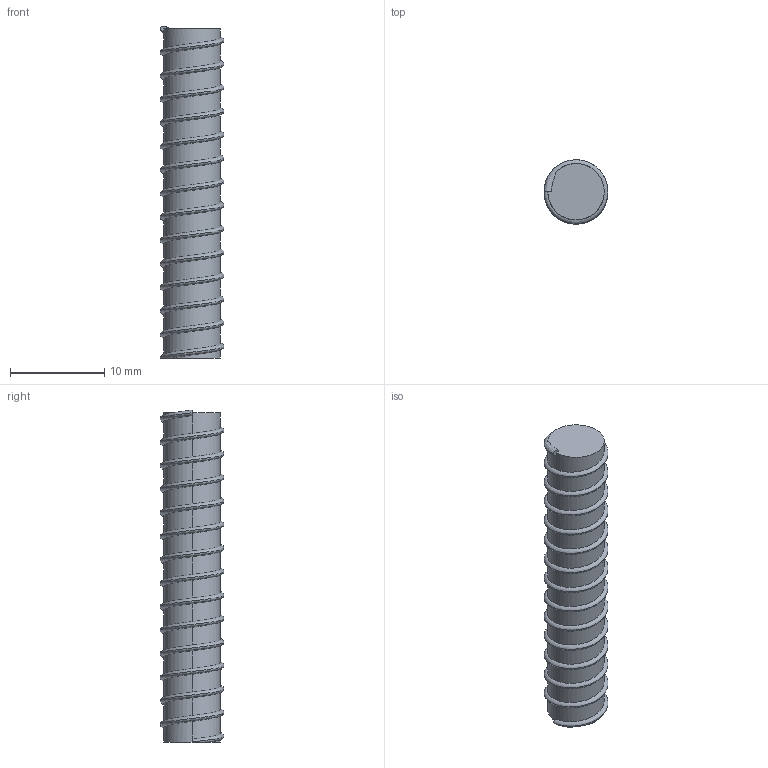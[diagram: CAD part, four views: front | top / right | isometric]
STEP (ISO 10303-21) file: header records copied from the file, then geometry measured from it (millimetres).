
FILE_DESCRIPTION (( 'STEP AP214' ), '1' );
FILE_NAME ('threadedspindle.STEP', '2025-06-15T00:36:43', ( '' ), ( '' ), 'SwSTEP 2.0', 'SolidWorks 2024', '' );
FILE_SCHEMA (( 'AUTOMOTIVE_DESIGN' ));
Length unit declared in the file: millimetre
Products named in the file (1): threadedspindle
Bounding box: 6.8 x 6.8 x 35.3 mm (x, y, z)
Volume: 927.6 mm3; surface area: 1028.5 mm2
Topology: 1 solids, 1 shells, 41 faces, 111 edges, 73 vertices
Faces by surface type: cylinder 33, plane 6, bspline 2
Entity records: 5907 total; most frequent: CARTESIAN_POINT 5031, ORIENTED_EDGE 222, DIRECTION 139, EDGE_CURVE 111, VERTEX_POINT 73, AXIS2_PLACEMENT_3D 50, EDGE_LOOP 42, FACE_OUTER_BOUND 41
